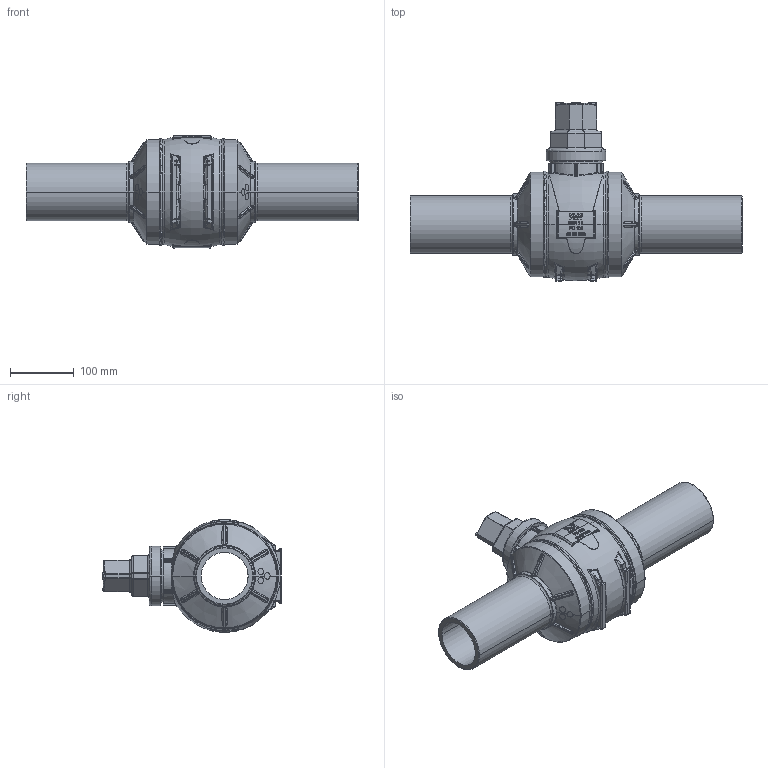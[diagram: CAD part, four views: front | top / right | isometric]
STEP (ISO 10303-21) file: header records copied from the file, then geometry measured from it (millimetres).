
FILE_DESCRIPTION (( 'STEP AP203' ), '1' );
FILE_NAME ('SOLID BV PE OD90-DN80 SDR11 DSL.STEP', '2019-06-03T13:28:29', ( 'Beheer' ), ( '' ), 'SwSTEP 2.0', 'SolidWorks 2012', '' );
FILE_SCHEMA (( 'CONFIG_CONTROL_DESIGN' ));
Length unit declared in the file: millimetre
Products named in the file (1): SOLID BV PE OD90-DN80 SDR11 DSL
Bounding box: 519.56 x 280 x 176.5 mm (x, y, z)
Volume: 4128601.9 mm3; surface area: 369273.3 mm2
Topology: 1 solids, 17 shells, 1871 faces, 4569 edges, 2700 vertices
Faces by surface type: bspline 685, cylinder 487, plane 407, torus 174, sphere 73, cone 45
Entity records: 92238 total; most frequent: CARTESIAN_POINT 54265, ORIENTED_EDGE 8976, DIRECTION 6457, EDGE_CURVE 4488, VERTEX_POINT 2700, AXIS2_PLACEMENT_3D 2668, EDGE_LOOP 1922, FACE_OUTER_BOUND 1871
